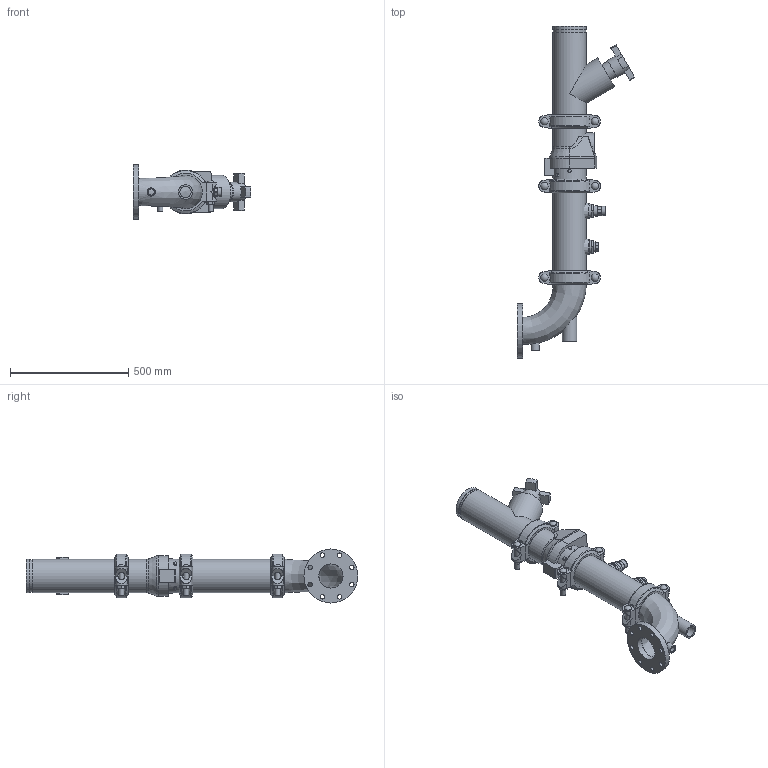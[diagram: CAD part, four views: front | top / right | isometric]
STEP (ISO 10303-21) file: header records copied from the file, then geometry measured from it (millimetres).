
FILE_DESCRIPTION(/* description */ ('VIC DVI PUMP DROP HORZ S/383 (OGSxFLG) (S/924-0.75)','CAx-IF Rec.Pracs.---Representation and Presentation of Product Manufacturing Information (PMI)---4.0---2014-10-13'),/* implementation_level */ '2;1');
FILE_NAME(/* name */ 'C:\Users\kkamble\AppData\Roaming\Autodesk\ApplicationPlugins\Victaulic.Temp\A821\CL 150_Series 383 (OGSxFLG)_924 (0.75)_05.0x04.0 (125x100).stp',/* time_stamp */ '2022-03-16T18:45:33+05:00',/* author */ ('kkamble'),/* organization */ ('Victaulic'),/* preprocessor_version */ 'ST-DEVELOPER v17.2',/* originating_system */ 'Autodesk Inventor 2019',/* authorisation */ '');
FILE_SCHEMA (('AP242_MANAGED_MODEL_BASED_3D_ENGINEERING_MIM_LF { 1 0 10303 442 1 1 4 }'));
Length unit declared in the file: inch
Products named in the file (8): 383_924 (0.75)-05.0x04.0; Pipe-05.0x04.0; 789-05.0; 177N-05.0; 779-05.0; 924-04.0x0.75; 923-04.0x0.75; R100F-05.0x04.0
Assembly tree (9 placements, depth 2):
  383_924 (0.75)-05.0x04.0
    177N-05.0  x3
    Pipe-05.0x04.0
    789-05.0
    779-05.0
    924-04.0x0.75
    923-04.0x0.75
    R100F-05.0x04.0
Bounding box: 498.6 x 1404.94 x 228.6 mm (x, y, z)
Volume: 11274285.2 mm3; surface area: 1902642.4 mm2
Topology: 9 solids, 9 shells, 529 faces, 1419 edges, 948 vertices
Faces by surface type: plane 305, cylinder 177, torus 18, cone 17, sphere 6, bspline 6
Full cylindrical faces by diameter (mm): 13.716 x4, 19.05 x8, 21.209 x6, 26.67 x3, 30.48 x6, 34.29 x1, 38.608 x1, 45.974 x4, 48.26 x1, 55.626 x2, 60.96 x1, 75.26 x1, 82.55 x1, 102.26 x1, 128.194 x4, 128.6 x3, 137.033 x7, 141.3 x18, 228.6 x1
Entity records: 12857 total; most frequent: CARTESIAN_POINT 3424, DIRECTION 1928, ORIENTED_EDGE 1786, EDGE_CURVE 893, AXIS2_PLACEMENT_3D 738, VERTEX_POINT 604, LINE 452, VECTOR 452
